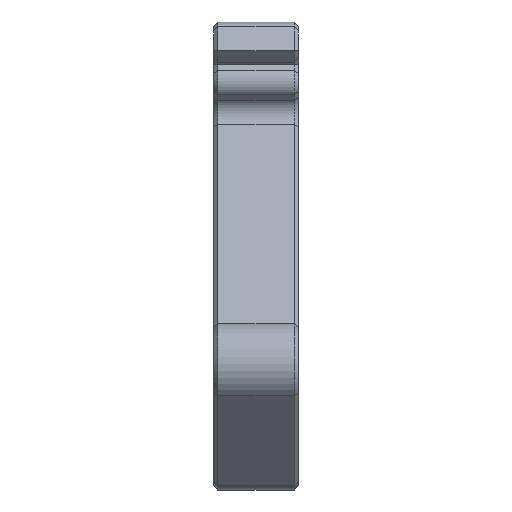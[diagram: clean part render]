
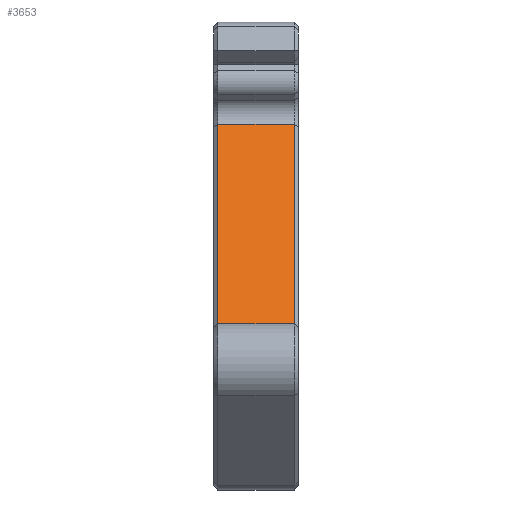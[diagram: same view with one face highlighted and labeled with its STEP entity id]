
A CAD part, top view. The second image highlights one B-rep face of the part: STEP entity #3653.
In plain terms, the highlighted planar face has unit normal (0, 0.707, 0.707).
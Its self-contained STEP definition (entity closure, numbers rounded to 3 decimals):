
#2980=CARTESIAN_POINT('Vertex',(4.5,66.717,-12.555)) ;
#3000=CARTESIAN_POINT('Line Origine',(4.5,48.733,5.428)) ;
#3004=CARTESIAN_POINT('Vertex',(4.5,35.,19.162)) ;
#3623=CARTESIAN_POINT('Axis2P3D Location',(0.,68.131,-13.969)) ;
#3628=CARTESIAN_POINT('Line Origine',(0.,35.,19.162)) ;
#3632=CARTESIAN_POINT('Vertex',(-4.5,35.,19.162)) ;
#3635=CARTESIAN_POINT('Line Origine',(0.,66.717,-12.555)) ;
#3639=CARTESIAN_POINT('Vertex',(-4.5,66.717,-12.555)) ;
#3642=CARTESIAN_POINT('Line Origine',(-4.5,50.858,3.303)) ;
#3001=DIRECTION('Vector Direction',(0.,0.707,-0.707)) ;
#3624=DIRECTION('Axis2P3D Direction',(-0.,0.707,0.707)) ;
#3625=DIRECTION('Axis2P3D XDirection',(0.,-0.707,0.707)) ;
#3629=DIRECTION('Vector Direction',(1.,0.,0.)) ;
#3636=DIRECTION('Vector Direction',(1.,0.,0.)) ;
#3643=DIRECTION('Vector Direction',(0.,0.707,-0.707)) ;
#3626=AXIS2_PLACEMENT_3D('Plane Axis2P3D',#3623,#3624,#3625) ;
#3648=ORIENTED_EDGE('',*,*,#3634,.T.) ;
#3649=ORIENTED_EDGE('',*,*,#3006,.F.) ;
#3650=ORIENTED_EDGE('',*,*,#3641,.T.) ;
#3651=ORIENTED_EDGE('',*,*,#3646,.T.) ;
#3002=VECTOR('Line Direction',#3001,1.) ;
#3630=VECTOR('Line Direction',#3629,1.) ;
#3637=VECTOR('Line Direction',#3636,1.) ;
#3644=VECTOR('Line Direction',#3643,1.) ;
#3653=ADVANCED_FACE('PartBody',(#3652),#3627,.T.) ;
#3006=EDGE_CURVE('',#2981,#3005,#3003,.F.) ;
#3634=EDGE_CURVE('',#3633,#3005,#3631,.T.) ;
#3641=EDGE_CURVE('',#2981,#3640,#3638,.F.) ;
#3646=EDGE_CURVE('',#3640,#3633,#3645,.F.) ;
#3647=EDGE_LOOP('',(#3648,#3649,#3650,#3651)) ;
#3652=FACE_OUTER_BOUND('',#3647,.T.) ;
#3003=LINE('Line',#3000,#3002) ;
#3631=LINE('Line',#3628,#3630) ;
#3638=LINE('Line',#3635,#3637) ;
#3645=LINE('Line',#3642,#3644) ;
#3627=PLANE('Plane',#3626) ;
#2981=VERTEX_POINT('',#2980) ;
#3005=VERTEX_POINT('',#3004) ;
#3633=VERTEX_POINT('',#3632) ;
#3640=VERTEX_POINT('',#3639) ;
